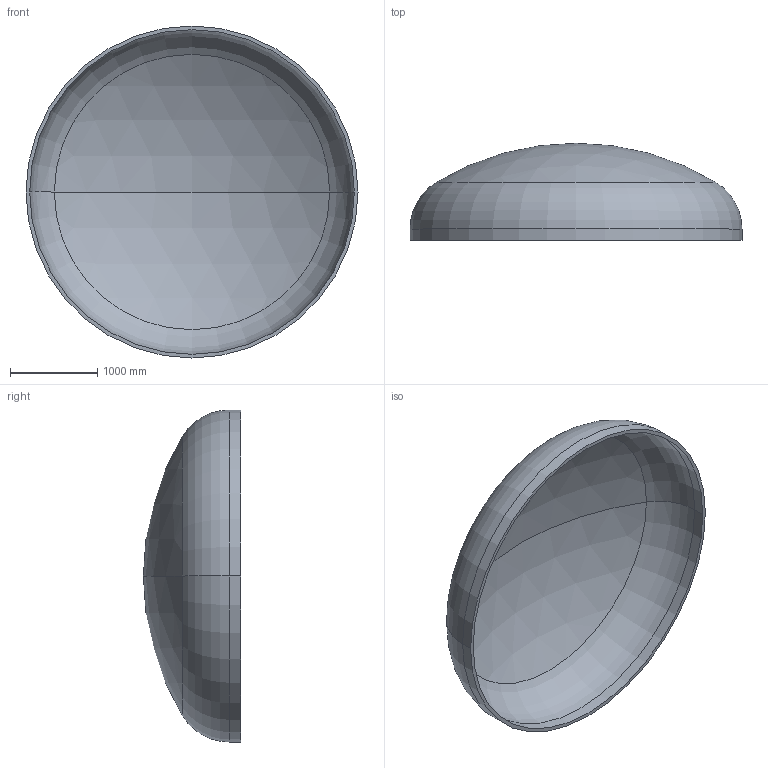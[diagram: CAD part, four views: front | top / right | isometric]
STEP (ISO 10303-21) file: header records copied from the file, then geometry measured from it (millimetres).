
FILE_DESCRIPTION (( 'STEP AP203' ), '1' );
FILE_NAME ('DIN 28013 Korbbogenform_-_Boden DIN 28013 - 3800 x 130 - I - s=42.step', '2016-07-01T21:24:05', ( '' ), ( '' ), 'SwSTEP 2.0', 'SolidWorks 2013', '' );
FILE_SCHEMA (( 'CONFIG_CONTROL_DESIGN' ));
Length unit declared in the file: millimetre
Products named in the file (1): DIN 28013 Korbbogenform_-_Boden DIN 28013 - 3800 x 130 - I - s=42
Bounding box: 3800 x 1112.83 x 3800 mm (x, y, z)
Volume: 714553298.3 mm3; surface area: 34525886.1 mm2
Topology: 1 solids, 1 shells, 13 faces, 24 edges, 14 vertices
Faces by surface type: torus 4, cylinder 4, sphere 4, plane 1
Entity records: 407 total; most frequent: DIRECTION 72, CARTESIAN_POINT 52, ORIENTED_EDGE 48, AXIS2_PLACEMENT_3D 34, EDGE_CURVE 24, CIRCLE 20, VERTEX_POINT 14, EDGE_LOOP 14
